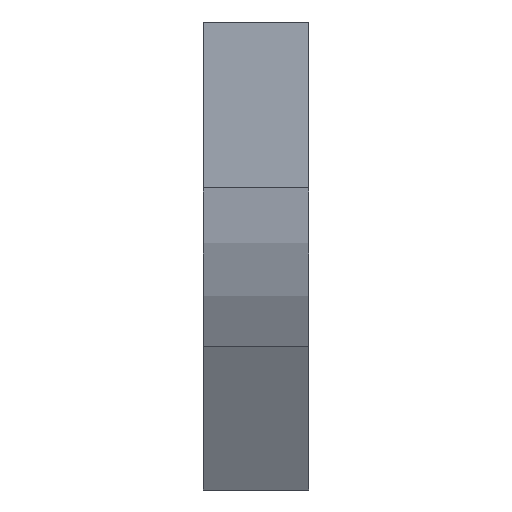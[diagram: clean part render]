
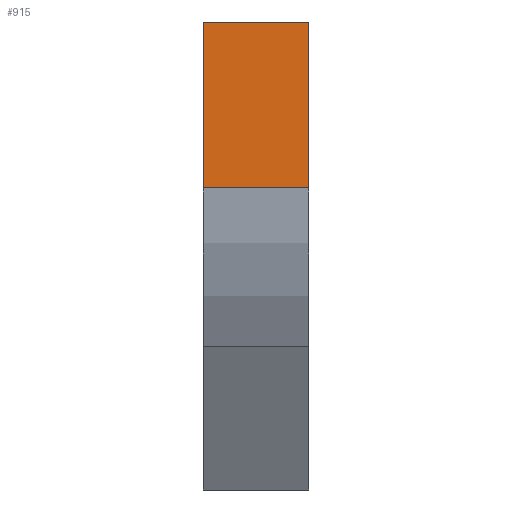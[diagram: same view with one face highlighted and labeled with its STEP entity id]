
A CAD part, left-side view. The second image highlights one B-rep face of the part: STEP entity #915.
In plain terms, the highlighted planar face has unit normal (-1, 0, 0).
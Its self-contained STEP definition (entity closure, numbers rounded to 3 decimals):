
#28 = CARTESIAN_POINT ( 'NONE',  ( 0., 100., -157.18 ) ) ;
#57 = VERTEX_POINT ( 'NONE', #351 ) ;
#84 = VERTEX_POINT ( 'NONE', #1501 ) ;
#94 = ORIENTED_EDGE ( 'NONE', *, *, #1582, .T. ) ;
#110 = VECTOR ( 'NONE', #440, 1000. ) ;
#120 = VERTEX_POINT ( 'NONE', #487 ) ;
#161 = EDGE_CURVE ( 'NONE', #1540, #84, #1857, .T. ) ;
#253 = EDGE_LOOP ( 'NONE', ( #1297, #513, #94, #1802 ) ) ;
#254 = AXIS2_PLACEMENT_3D ( 'NONE', #353, #1677, #938 ) ;
#318 = CARTESIAN_POINT ( 'NONE',  ( 0., 0., 0. ) ) ;
#351 = CARTESIAN_POINT ( 'NONE',  ( 0., 0., 0. ) ) ;
#353 = CARTESIAN_POINT ( 'NONE',  ( 0., 0., 0. ) ) ;
#355 = EDGE_CURVE ( 'NONE', #57, #84, #862, .T. ) ;
#440 = DIRECTION ( 'NONE',  ( 0., 0., -1. ) ) ;
#487 = CARTESIAN_POINT ( 'NONE',  ( 0., 100., 0. ) ) ;
#513 = ORIENTED_EDGE ( 'NONE', *, *, #621, .F. ) ;
#521 = FACE_OUTER_BOUND ( 'NONE', #253, .T. ) ;
#621 = EDGE_CURVE ( 'NONE', #120, #57, #699, .T. ) ;
#699 = LINE ( 'NONE', #1852, #1313 ) ;
#760 = PLANE ( 'NONE',  #254 ) ;
#814 = DIRECTION ( 'NONE',  ( 0., -1., 0. ) ) ;
#862 = LINE ( 'NONE', #318, #1105 ) ;
#915 = ADVANCED_FACE ( 'NONE', ( #521 ), #760, .F. ) ;
#938 = DIRECTION ( 'NONE',  ( 0., 0., -1. ) ) ;
#940 = VECTOR ( 'NONE', #814, 1000. ) ;
#1105 = VECTOR ( 'NONE', #1310, 1000. ) ;
#1124 = CARTESIAN_POINT ( 'NONE',  ( 0., 0., -157.18 ) ) ;
#1297 = ORIENTED_EDGE ( 'NONE', *, *, #355, .F. ) ;
#1310 = DIRECTION ( 'NONE',  ( 0., 0., -1. ) ) ;
#1313 = VECTOR ( 'NONE', #1526, 1000. ) ;
#1449 = CARTESIAN_POINT ( 'NONE',  ( 0., 100., 0. ) ) ;
#1501 = CARTESIAN_POINT ( 'NONE',  ( 0., 0., -157.18 ) ) ;
#1526 = DIRECTION ( 'NONE',  ( 0., -1., 0. ) ) ;
#1540 = VERTEX_POINT ( 'NONE', #28 ) ;
#1582 = EDGE_CURVE ( 'NONE', #120, #1540, #1593, .T. ) ;
#1593 = LINE ( 'NONE', #1449, #110 ) ;
#1677 = DIRECTION ( 'NONE',  ( 1., 0., 0. ) ) ;
#1802 = ORIENTED_EDGE ( 'NONE', *, *, #161, .T. ) ;
#1852 = CARTESIAN_POINT ( 'NONE',  ( 0., 0., 0. ) ) ;
#1857 = LINE ( 'NONE', #1124, #940 ) ;
